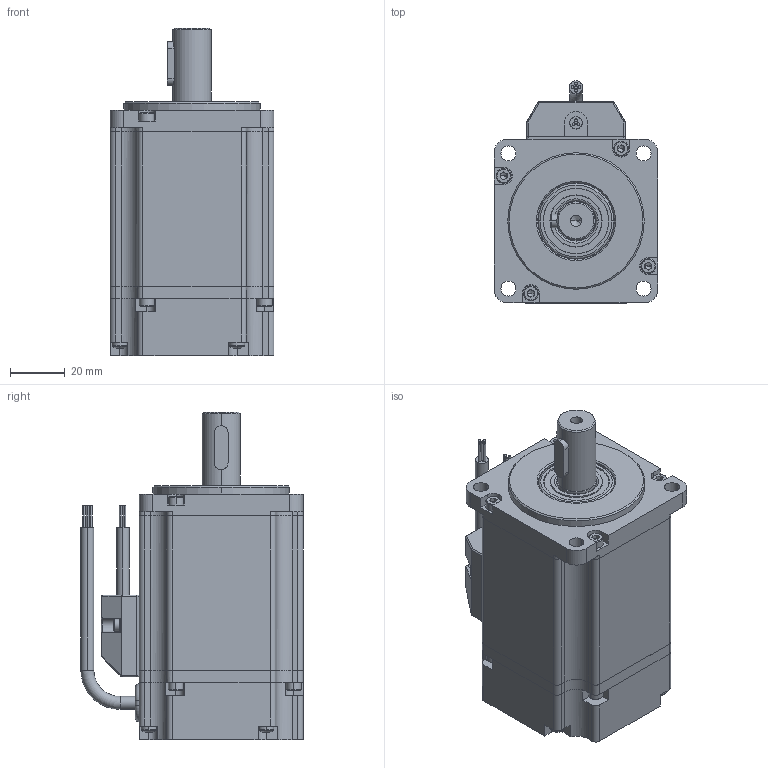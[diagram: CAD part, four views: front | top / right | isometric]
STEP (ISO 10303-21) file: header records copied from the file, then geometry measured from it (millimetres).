
FILE_DESCRIPTION (( 'STEP AP214' ), '1' );
FILE_NAME ('BLF60S-020 - 200W single shaft.STEP', '2024-09-11T18:05:35', ( '' ), ( '' ), 'SwSTEP 2.0', 'SolidWorks 2020', '' );
FILE_SCHEMA (( 'AUTOMOTIVE_DESIGN' ));
Length unit declared in the file: millimetre
Products named in the file (5): socket head cap screw_am_B18.3.1M - 3 x 0.5 x 8 Hex SHCS -- 8SHX; pan cross head_am_B18.6.7M - M3 x 0.5 x 20 Type I Cross Recessed PHMS --20N; BLF60S-020 - 200W single shaft; BLF60D-0X0 - X00W D-S shaft_BLF60D-020-200W Dual shaft; socket head cap screw_am_B18.3.1M - 2.5 x 0.45 x 10 Hex SHCS -- 10SHX
Assembly tree (15 placements, depth 2):
  BLF60S-020 - 200W single shaft
    BLF60D-0X0 - X00W D-S shaft_BLF60D-020-200W Dual shaft
    socket head cap screw_am_B18.3.1M - 3 x 0.5 x 8 Hex SHCS -- 8SHX  x8
    socket head cap screw_am_B18.3.1M - 2.5 x 0.45 x 10 Hex SHCS -- 10SHX  x2
    pan cross head_am_B18.6.7M - M3 x 0.5 x 20 Type I Cross Recessed PHMS --20N  x4
Bounding box: 60 x 81.42 x 120 mm (x, y, z)
Volume: 315740.3 mm3; surface area: 37999.9 mm2
Topology: 15 solids, 15 shells, 1687 faces, 4235 edges, 2596 vertices
Faces by surface type: cone 724, cylinder 541, plane 361, torus 39, sphere 14, bspline 8
Entity records: 19579 total; most frequent: CARTESIAN_POINT 3854, DIRECTION 3493, ORIENTED_EDGE 3150, EDGE_CURVE 1575, AXIS2_PLACEMENT_3D 1369, VERTEX_POINT 972, VECTOR 755, LINE 755
